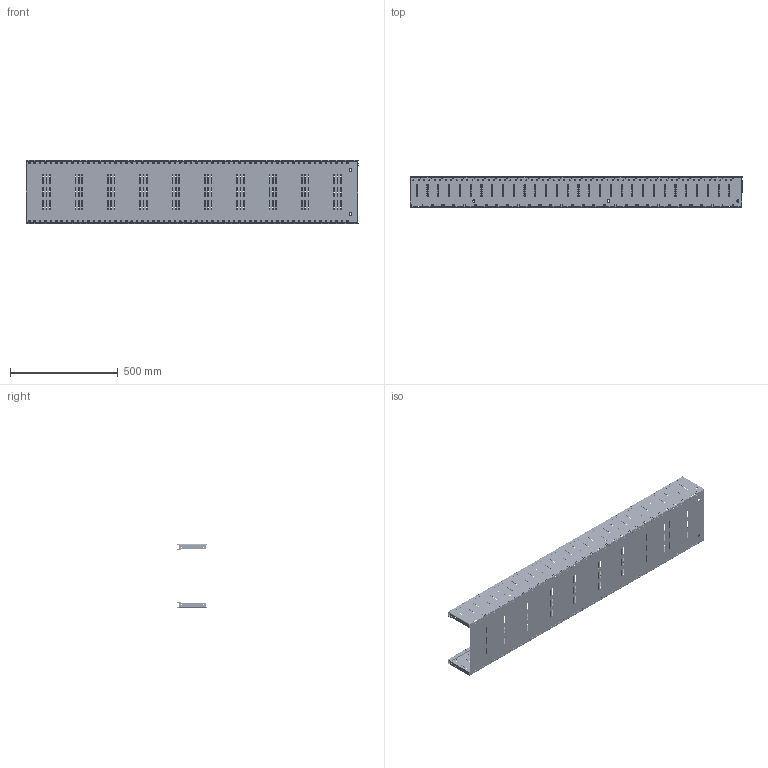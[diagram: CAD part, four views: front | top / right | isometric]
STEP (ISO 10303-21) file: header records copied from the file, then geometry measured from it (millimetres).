
FILE_DESCRIPTION(('CAx-IF Rec.Pracs.---Model Styling and Organization---1.2---2011-12-15','CAx-IF Rec.Pracs.---Geometric and Assembly Validation Properties---4.1---2014-06-16','CAx-IF Rec.Pracs.---PMI Polyline Presentation---2.0---2013-05-24'),'2;1');
FILE_NAME('R5MRGBS30M.stp','2021-05-05T12:57:46+03:00',(''),(''),'STEP Interface 4.4 by CT CoreTechnologie','3D_Evolution4.4 by CT CoreTechnologie','');
FILE_SCHEMA(('AUTOMOTIVE_DESIGN { 1 0 10303 214 1 1 1 1 }'));
Length unit declared in the file: millimetre
Products named in the file (4): R5MRGBS30M; RB.1270.00.00.0_-00; RB.1394.00.00.0_-02; RB.1270.00.00.0_-01
Assembly tree (3 placements, depth 2):
  R5MRGBS30M
    RB.1270.00.00.0_-00
    RB.1394.00.00.0_-02
    RB.1270.00.00.0_-01
Bounding box: 1540 x 143 x 295 mm (x, y, z)
Surface area: 2115097.4 mm2 (no closed solid volume)
Topology: 0 solids, 3 shells, 3817 faces, 12355 edges, 8104 vertices
Faces by surface type: cylinder 2180, plane 1637
Entity records: 141544 total; most frequent: ORIENTED_EDGE 24710, DIRECTION 24357, CARTESIAN_POINT 24280, EDGE_CURVE 12355, AXIS2_PLACEMENT_3D 8181, VERTEX_POINT 8104, VECTOR 7995, LINE 7995
